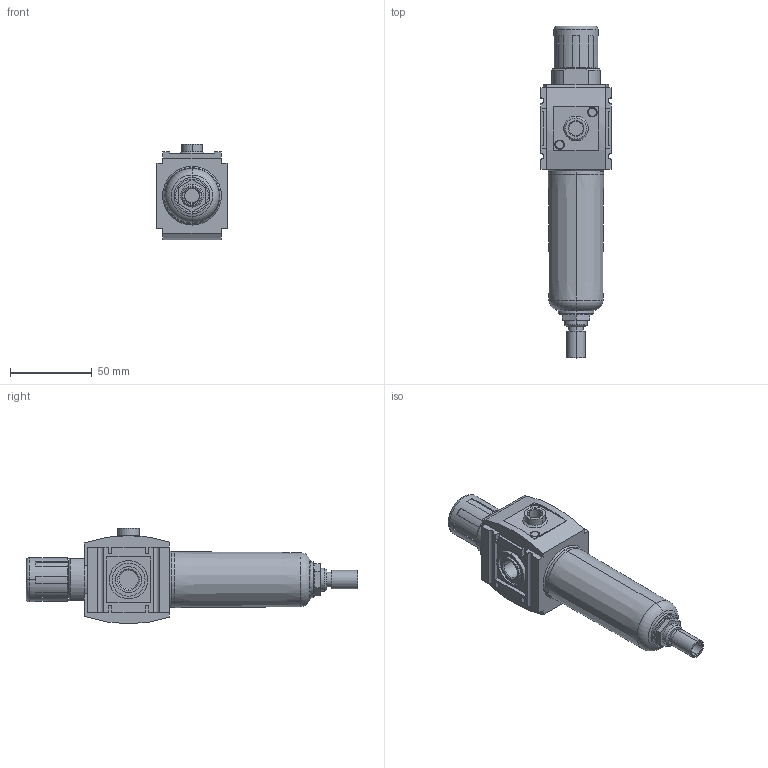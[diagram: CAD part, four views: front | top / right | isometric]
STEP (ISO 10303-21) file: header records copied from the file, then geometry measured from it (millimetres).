
FILE_DESCRIPTION((''),'2;1');
FILE_NAME('R412014731_ASM','2019-03-19T',('vol1hc'),(''),'CREO PARAMETRIC BY PTC INC, 2016260','CREO PARAMETRIC BY PTC INC, 2016260','');
FILE_SCHEMA(('CONFIG_CONTROL_DESIGN'));
Length unit declared in the file: millimetre
Products named in the file (3): R412014731; AS1_RES_FILTER_FULLY; R412014731_ASM
Assembly tree (2 placements, depth 2):
  R412014731_ASM
    R412014731
    AS1_RES_FILTER_FULLY
Bounding box: 43 x 203.3 x 58.5 mm (x, y, z)
Volume: 203258.2 mm3; surface area: 37248.2 mm2
Topology: 2 solids, 2 shells, 241 faces, 602 edges, 394 vertices
Faces by surface type: plane 143, cylinder 72, cone 22, torus 4
Entity records: 7316 total; most frequent: DIRECTION 1290, CARTESIAN_POINT 1258, ORIENTED_EDGE 1204, EDGE_CURVE 602, AXIS2_PLACEMENT_3D 446, VECTOR 398, LINE 398, VERTEX_POINT 394
